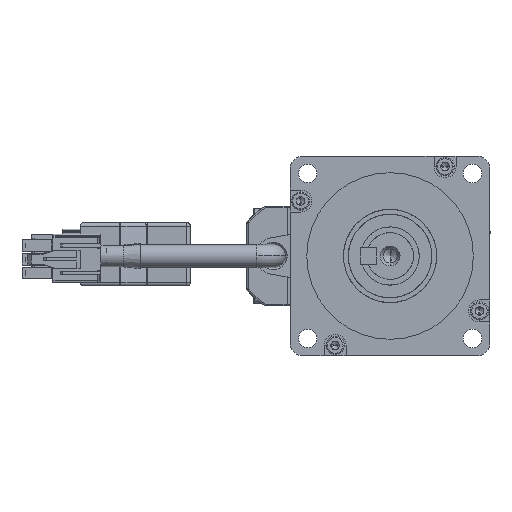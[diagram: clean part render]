
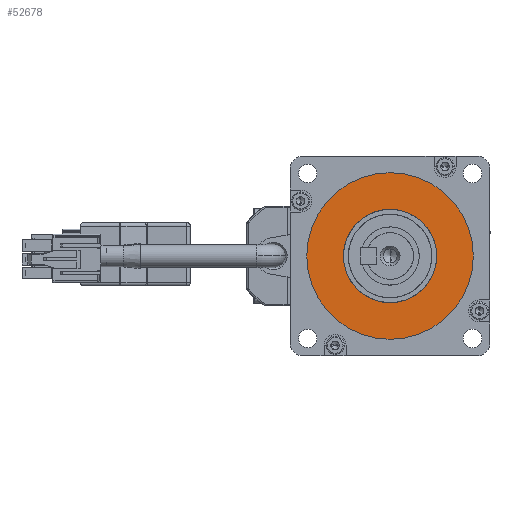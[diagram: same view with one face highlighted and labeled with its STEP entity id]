
A CAD part, left-side view. The second image highlights one B-rep face of the part: STEP entity #52678.
In plain terms, the highlighted planar face has unit normal (-1, 0, 0).
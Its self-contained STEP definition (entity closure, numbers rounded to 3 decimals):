
#664 = ORIENTED_EDGE ( 'NONE', *, *, #32126, .F. ) ;
#1037 = CARTESIAN_POINT ( 'NONE',  ( -5.4, 0., 0. ) ) ;
#2756 = FACE_BOUND ( 'NONE', #10655, .T. ) ;
#4008 = AXIS2_PLACEMENT_3D ( 'NONE', #47078, #16125, #52301 ) ;
#4347 = FACE_OUTER_BOUND ( 'NONE', #21073, .T. ) ;
#6233 = DIRECTION ( 'NONE',  ( 0., 0., 1. ) ) ;
#10655 = EDGE_LOOP ( 'NONE', ( #664, #59227 ) ) ;
#12148 = DIRECTION ( 'NONE',  ( -1., 0., 0. ) ) ;
#15195 = CARTESIAN_POINT ( 'NONE',  ( -5.4, 0., 0. ) ) ;
#16125 = DIRECTION ( 'NONE',  ( -1., 0., 0. ) ) ;
#17847 = CIRCLE ( 'NONE', #4008, 25. ) ;
#19518 = AXIS2_PLACEMENT_3D ( 'NONE', #15195, #20400, #56601 ) ;
#19923 = CARTESIAN_POINT ( 'NONE',  ( -5.4, 0., 25. ) ) ;
#20400 = DIRECTION ( 'NONE',  ( 1., 0., 0. ) ) ;
#21073 = EDGE_LOOP ( 'NONE', ( #66946, #34101 ) ) ;
#24018 = CARTESIAN_POINT ( 'NONE',  ( -5.4, 0., -25. ) ) ;
#26614 = VERTEX_POINT ( 'NONE', #65432 ) ;
#29394 = DIRECTION ( 'NONE',  ( -1., 0., 0. ) ) ;
#31567 = VERTEX_POINT ( 'NONE', #24018 ) ;
#32126 = EDGE_CURVE ( 'NONE', #26614, #60069, #32588, .T. ) ;
#32588 = CIRCLE ( 'NONE', #49502, 14. ) ;
#32774 = EDGE_CURVE ( 'NONE', #57076, #31567, #17847, .T. ) ;
#34101 = ORIENTED_EDGE ( 'NONE', *, *, #43238, .T. ) ;
#37293 = DIRECTION ( 'NONE',  ( -1., 0., 0. ) ) ;
#41565 = CIRCLE ( 'NONE', #43486, 14. ) ;
#42426 = CIRCLE ( 'NONE', #58747, 25. ) ;
#43221 = CARTESIAN_POINT ( 'NONE',  ( -5.4, 0., 0. ) ) ;
#43238 = EDGE_CURVE ( 'NONE', #31567, #57076, #42426, .T. ) ;
#43486 = AXIS2_PLACEMENT_3D ( 'NONE', #43221, #12148, #48334 ) ;
#46180 = PLANE ( 'NONE',  #19518 ) ;
#47078 = CARTESIAN_POINT ( 'NONE',  ( -5.4, 0., 0. ) ) ;
#48334 = DIRECTION ( 'NONE',  ( 0., 0., 1. ) ) ;
#49502 = AXIS2_PLACEMENT_3D ( 'NONE', #60285, #29394, #65430 ) ;
#52301 = DIRECTION ( 'NONE',  ( 0., 0., 1. ) ) ;
#52678 = ADVANCED_FACE ( 'NONE', ( #2756, #4347 ), #46180, .F. ) ;
#53495 = EDGE_CURVE ( 'NONE', #60069, #26614, #41565, .T. ) ;
#56601 = DIRECTION ( 'NONE',  ( 0., 0., -1. ) ) ;
#57076 = VERTEX_POINT ( 'NONE', #19923 ) ;
#58747 = AXIS2_PLACEMENT_3D ( 'NONE', #1037, #37293, #6233 ) ;
#59227 = ORIENTED_EDGE ( 'NONE', *, *, #53495, .F. ) ;
#60069 = VERTEX_POINT ( 'NONE', #61063 ) ;
#60285 = CARTESIAN_POINT ( 'NONE',  ( -5.4, 0., 0. ) ) ;
#61063 = CARTESIAN_POINT ( 'NONE',  ( -5.4, 0., -14. ) ) ;
#65430 = DIRECTION ( 'NONE',  ( 0., 0., 1. ) ) ;
#65432 = CARTESIAN_POINT ( 'NONE',  ( -5.4, 0., 14. ) ) ;
#66946 = ORIENTED_EDGE ( 'NONE', *, *, #32774, .T. ) ;
